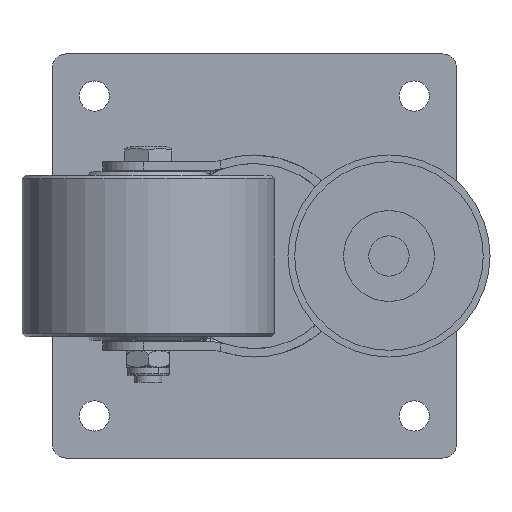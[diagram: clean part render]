
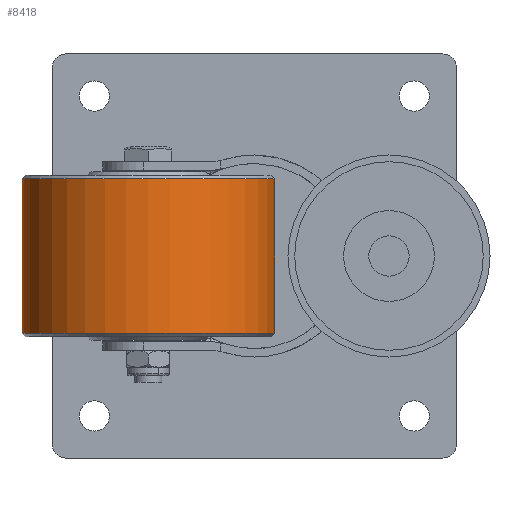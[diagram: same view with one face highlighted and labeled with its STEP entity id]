
A CAD part, front view. The second image highlights one B-rep face of the part: STEP entity #8418.
In plain terms, the highlighted cylindrical face has radius 37.5 mm (diameter 75 mm), a partial arc.
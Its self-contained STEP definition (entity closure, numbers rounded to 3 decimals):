
#191 = CYLINDRICAL_SURFACE ( 'NONE', #9055, 37.5 ) ;
#295 = CARTESIAN_POINT ( 'NONE',  ( 0., 0., 24. ) ) ;
#401 = EDGE_CURVE ( 'NONE', #8778, #2039, #9962, .T. ) ;
#509 = EDGE_CURVE ( 'NONE', #3810, #3061, #1917, .T. ) ;
#1274 = CARTESIAN_POINT ( 'NONE',  ( -37.5, 0., -23. ) ) ;
#1349 = DIRECTION ( 'NONE',  ( 1., 0., 0. ) ) ;
#1917 = CIRCLE ( 'NONE', #9785, 37.5 ) ;
#2039 = VERTEX_POINT ( 'NONE', #7902 ) ;
#2182 = DIRECTION ( 'NONE',  ( 1., 0., 0. ) ) ;
#2737 = DIRECTION ( 'NONE',  ( 0., 0., -1. ) ) ;
#3059 = DIRECTION ( 'NONE',  ( 0., 0., -1. ) ) ;
#3061 = VERTEX_POINT ( 'NONE', #10109 ) ;
#3234 = CARTESIAN_POINT ( 'NONE',  ( 37.5, 0., 23. ) ) ;
#3314 = EDGE_LOOP ( 'NONE', ( #7321, #9611, #6916, #10341 ) ) ;
#3351 = DIRECTION ( 'NONE',  ( 0., 0., -1. ) ) ;
#3400 = CARTESIAN_POINT ( 'NONE',  ( 0., 0., -23. ) ) ;
#3579 = AXIS2_PLACEMENT_3D ( 'NONE', #3400, #5166, #1349 ) ;
#3626 = LINE ( 'NONE', #7735, #11348 ) ;
#3810 = VERTEX_POINT ( 'NONE', #3234 ) ;
#5166 = DIRECTION ( 'NONE',  ( 0., 0., 1. ) ) ;
#5817 = VECTOR ( 'NONE', #3059, 1000. ) ;
#6916 = ORIENTED_EDGE ( 'NONE', *, *, #11698, .T. ) ;
#7002 = CARTESIAN_POINT ( 'NONE',  ( 37.5, 0., 24. ) ) ;
#7204 = DIRECTION ( 'NONE',  ( 0., 0., -1. ) ) ;
#7215 = LINE ( 'NONE', #7002, #5817 ) ;
#7321 = ORIENTED_EDGE ( 'NONE', *, *, #10647, .F. ) ;
#7735 = CARTESIAN_POINT ( 'NONE',  ( -37.5, 0., 24. ) ) ;
#7902 = CARTESIAN_POINT ( 'NONE',  ( 37.5, 0., -23. ) ) ;
#8260 = FACE_OUTER_BOUND ( 'NONE', #3314, .T. ) ;
#8418 = ADVANCED_FACE ( 'NONE', ( #8260 ), #191, .T. ) ;
#8778 = VERTEX_POINT ( 'NONE', #1274 ) ;
#9055 = AXIS2_PLACEMENT_3D ( 'NONE', #295, #7204, #11152 ) ;
#9188 = CARTESIAN_POINT ( 'NONE',  ( 0., 0., 23. ) ) ;
#9611 = ORIENTED_EDGE ( 'NONE', *, *, #509, .T. ) ;
#9785 = AXIS2_PLACEMENT_3D ( 'NONE', #9188, #3351, #2182 ) ;
#9962 = CIRCLE ( 'NONE', #3579, 37.5 ) ;
#10109 = CARTESIAN_POINT ( 'NONE',  ( -37.5, 0., 23. ) ) ;
#10341 = ORIENTED_EDGE ( 'NONE', *, *, #401, .T. ) ;
#10647 = EDGE_CURVE ( 'NONE', #3810, #2039, #7215, .T. ) ;
#11152 = DIRECTION ( 'NONE',  ( -1., 0., 0. ) ) ;
#11348 = VECTOR ( 'NONE', #2737, 1000. ) ;
#11698 = EDGE_CURVE ( 'NONE', #3061, #8778, #3626, .T. ) ;
